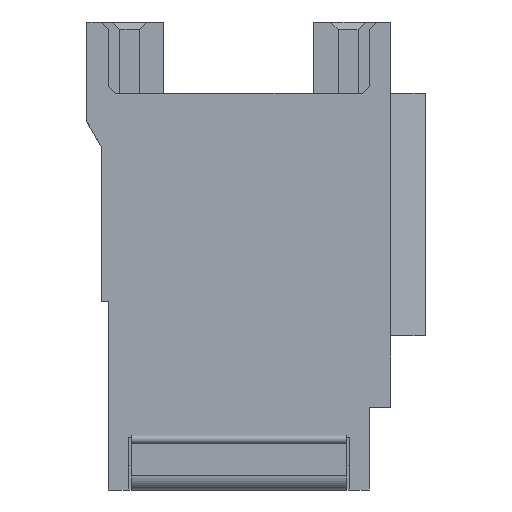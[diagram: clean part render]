
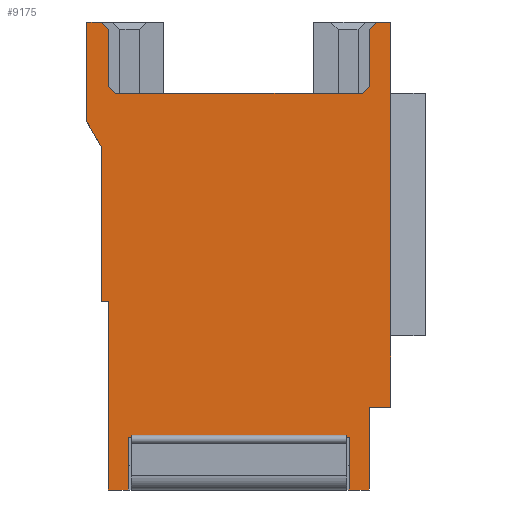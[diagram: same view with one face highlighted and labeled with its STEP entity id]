
A CAD part, front view. The second image highlights one B-rep face of the part: STEP entity #9175.
In plain terms, the highlighted planar face has unit normal (0, -1, 0).
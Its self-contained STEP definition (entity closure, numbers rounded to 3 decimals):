
#73=DIRECTION('',(-1.,0.,0.));
#74=VECTOR('',#73,0.2);
#75=CARTESIAN_POINT('',(7.75,-8.575,-29.1));
#76=LINE('',#75,#74);
#81=DIRECTION('',(0.,0.,1.));
#82=VECTOR('',#81,0.15);
#83=CARTESIAN_POINT('',(7.55,-8.575,-29.1));
#84=LINE('',#83,#82);
#88=DIRECTION('',(-1.,0.,0.));
#89=VECTOR('',#88,15.1);
#90=CARTESIAN_POINT('',(7.55,-8.575,-28.95));
#91=LINE('',#90,#89);
#95=DIRECTION('',(0.,0.,1.));
#96=VECTOR('',#95,0.15);
#97=CARTESIAN_POINT('',(-7.55,-8.575,-29.1));
#98=LINE('',#97,#96);
#102=DIRECTION('',(-1.,0.,0.));
#103=VECTOR('',#102,0.2);
#104=CARTESIAN_POINT('',(-7.55,-8.575,-29.1));
#105=LINE('',#104,#103);
#109=DIRECTION('',(0.,0.,1.));
#110=VECTOR('',#109,3.7);
#111=CARTESIAN_POINT('',(-7.75,-8.575,-32.8));
#112=LINE('',#111,#110);
#116=DIRECTION('',(-1.,0.,0.));
#117=VECTOR('',#116,1.4);
#118=CARTESIAN_POINT('',(-7.75,-8.575,-32.8));
#119=LINE('',#118,#117);
#123=DIRECTION('',(0.,0.,1.));
#124=VECTOR('',#123,13.2);
#125=CARTESIAN_POINT('',(-9.15,-8.575,-32.8));
#126=LINE('',#125,#124);
#130=DIRECTION('',(-1.,0.,0.));
#131=VECTOR('',#130,0.5);
#132=CARTESIAN_POINT('',(-9.15,-8.575,-19.6));
#133=LINE('',#132,#131);
#137=DIRECTION('',(0.,0.,1.));
#138=VECTOR('',#137,10.868);
#139=CARTESIAN_POINT('',(-9.65,-8.575,-19.6));
#140=LINE('',#139,#138);
#144=DIRECTION('',(-0.5,0.,0.866));
#145=VECTOR('',#144,2.);
#146=CARTESIAN_POINT('',(-9.65,-8.575,-8.732));
#147=LINE('',#146,#145);
#151=DIRECTION('',(0.,0.,1.));
#152=VECTOR('',#151,7.);
#153=CARTESIAN_POINT('',(-10.65,-8.575,-7.));
#154=LINE('',#153,#152);
#158=DIRECTION('',(1.,0.,0.));
#159=VECTOR('',#158,1.);
#160=CARTESIAN_POINT('',(-10.65,-8.575,0.));
#161=LINE('',#160,#159);
#165=DIRECTION('',(0.707,0.,-0.707));
#166=VECTOR('',#165,0.707);
#167=CARTESIAN_POINT('',(-9.65,-8.575,0.));
#168=LINE('',#167,#166);
#172=DIRECTION('',(0.,0.,-1.));
#173=VECTOR('',#172,4.);
#174=CARTESIAN_POINT('',(-9.15,-8.575,-0.5));
#175=LINE('',#174,#173);
#179=DIRECTION('',(0.707,0.,-0.707));
#180=VECTOR('',#179,0.707);
#181=CARTESIAN_POINT('',(-9.15,-8.575,-4.5));
#182=LINE('',#181,#180);
#186=DIRECTION('',(1.,0.,0.));
#187=VECTOR('',#186,17.3);
#188=CARTESIAN_POINT('',(-8.65,-8.575,-5.));
#189=LINE('',#188,#187);
#193=DIRECTION('',(0.707,0.,0.707));
#194=VECTOR('',#193,0.707);
#195=CARTESIAN_POINT('',(8.65,-8.575,-5.));
#196=LINE('',#195,#194);
#200=DIRECTION('',(0.,0.,1.));
#201=VECTOR('',#200,4.);
#202=CARTESIAN_POINT('',(9.15,-8.575,-4.5));
#203=LINE('',#202,#201);
#207=DIRECTION('',(0.707,0.,0.707));
#208=VECTOR('',#207,0.707);
#209=CARTESIAN_POINT('',(9.15,-8.575,-0.5));
#210=LINE('',#209,#208);
#214=DIRECTION('',(1.,0.,0.));
#215=VECTOR('',#214,1.);
#216=CARTESIAN_POINT('',(9.65,-8.575,0.));
#217=LINE('',#216,#215);
#221=DIRECTION('',(0.,0.,-1.));
#222=VECTOR('',#221,17.);
#223=CARTESIAN_POINT('',(10.65,-8.575,-5.));
#224=LINE('',#223,#222);
#228=DIRECTION('',(-1.,0.,0.));
#229=VECTOR('',#228,1.5);
#230=CARTESIAN_POINT('',(10.65,-8.575,-27.));
#231=LINE('',#230,#229);
#235=DIRECTION('',(0.,0.,-1.));
#236=VECTOR('',#235,5.8);
#237=CARTESIAN_POINT('',(9.15,-8.575,-27.));
#238=LINE('',#237,#236);
#242=DIRECTION('',(-1.,0.,0.));
#243=VECTOR('',#242,1.4);
#244=CARTESIAN_POINT('',(9.15,-8.575,-32.8));
#245=LINE('',#244,#243);
#249=DIRECTION('',(0.,0.,1.));
#250=VECTOR('',#249,3.7);
#251=CARTESIAN_POINT('',(7.75,-8.575,-32.8));
#252=LINE('',#251,#250);
#1290=DIRECTION('',(0.,0.,1.));
#1291=VECTOR('',#1290,5.);
#1292=CARTESIAN_POINT('',(10.65,-8.575,-27.));
#1293=LINE('',#1292,#1291);
#1318=DIRECTION('',(0.,0.,1.));
#1319=VECTOR('',#1318,5.);
#1320=CARTESIAN_POINT('',(10.65,-8.575,-5.));
#1321=LINE('',#1320,#1319);
#7683=CARTESIAN_POINT('',(-9.65,-8.575,-19.6));
#7684=CARTESIAN_POINT('',(-9.65,-8.575,-8.732));
#7685=VERTEX_POINT('',#7683);
#7686=VERTEX_POINT('',#7684);
#7687=CARTESIAN_POINT('',(-10.65,-8.575,-7.));
#7688=VERTEX_POINT('',#7687);
#7689=CARTESIAN_POINT('',(-10.65,-8.575,0.));
#7690=VERTEX_POINT('',#7689);
#7691=CARTESIAN_POINT('',(10.65,-8.575,-27.));
#7692=CARTESIAN_POINT('',(9.15,-8.575,-27.));
#7693=VERTEX_POINT('',#7691);
#7694=VERTEX_POINT('',#7692);
#7695=CARTESIAN_POINT('',(9.15,-8.575,-32.8));
#7696=VERTEX_POINT('',#7695);
#7703=CARTESIAN_POINT('',(-9.15,-8.575,-32.8));
#7705=VERTEX_POINT('',#7703);
#7707=CARTESIAN_POINT('',(-9.15,-8.575,-19.6));
#7708=VERTEX_POINT('',#7707);
#7723=CARTESIAN_POINT('',(10.65,-8.575,-5.));
#7724=CARTESIAN_POINT('',(10.65,-8.575,-22.));
#7725=VERTEX_POINT('',#7723);
#7726=VERTEX_POINT('',#7724);
#7745=CARTESIAN_POINT('',(10.65,-8.575,0.));
#7746=VERTEX_POINT('',#7745);
#7812=CARTESIAN_POINT('',(-9.65,-8.575,0.));
#7813=CARTESIAN_POINT('',(-9.15,-8.575,-0.5));
#7814=VERTEX_POINT('',#7812);
#7815=VERTEX_POINT('',#7813);
#7816=CARTESIAN_POINT('',(-9.15,-8.575,-4.5));
#7817=VERTEX_POINT('',#7816);
#7818=CARTESIAN_POINT('',(9.15,-8.575,-0.5));
#7819=CARTESIAN_POINT('',(9.65,-8.575,0.));
#7820=VERTEX_POINT('',#7818);
#7821=VERTEX_POINT('',#7819);
#8082=CARTESIAN_POINT('',(-8.65,-8.575,-5.));
#8083=VERTEX_POINT('',#8082);
#8084=CARTESIAN_POINT('',(8.65,-8.575,-5.));
#8085=VERTEX_POINT('',#8084);
#8086=CARTESIAN_POINT('',(9.15,-8.575,-4.5));
#8087=VERTEX_POINT('',#8086);
#8961=CARTESIAN_POINT('',(-7.75,-8.575,-32.8));
#8963=VERTEX_POINT('',#8961);
#8968=CARTESIAN_POINT('',(7.75,-8.575,-32.8));
#8969=VERTEX_POINT('',#8968);
#8970=CARTESIAN_POINT('',(-7.75,-8.575,-29.1));
#8971=VERTEX_POINT('',#8970);
#8984=CARTESIAN_POINT('',(7.75,-8.575,-29.1));
#8985=VERTEX_POINT('',#8984);
#9080=CARTESIAN_POINT('',(7.55,-8.575,-29.1));
#9081=VERTEX_POINT('',#9080);
#9082=CARTESIAN_POINT('',(-7.55,-8.575,-29.1));
#9083=VERTEX_POINT('',#9082);
#9104=CARTESIAN_POINT('',(7.55,-8.575,-28.95));
#9105=VERTEX_POINT('',#9104);
#9106=CARTESIAN_POINT('',(-7.55,-8.575,-28.95));
#9107=VERTEX_POINT('',#9106);
#9112=CARTESIAN_POINT('',(0.,-8.575,0.));
#9113=DIRECTION('',(0.,1.,0.));
#9114=DIRECTION('',(1.,0.,0.));
#9115=AXIS2_PLACEMENT_3D('',#9112,#9113,#9114);
#9116=PLANE('',#9115);
#9118=ORIENTED_EDGE('',*,*,#9117,.T.);
#9120=ORIENTED_EDGE('',*,*,#9119,.T.);
#9122=ORIENTED_EDGE('',*,*,#9121,.T.);
#9124=ORIENTED_EDGE('',*,*,#9123,.F.);
#9126=ORIENTED_EDGE('',*,*,#9125,.T.);
#9128=ORIENTED_EDGE('',*,*,#9127,.F.);
#9130=ORIENTED_EDGE('',*,*,#9129,.T.);
#9132=ORIENTED_EDGE('',*,*,#9131,.T.);
#9134=ORIENTED_EDGE('',*,*,#9133,.T.);
#9136=ORIENTED_EDGE('',*,*,#9135,.T.);
#9138=ORIENTED_EDGE('',*,*,#9137,.T.);
#9140=ORIENTED_EDGE('',*,*,#9139,.T.);
#9142=ORIENTED_EDGE('',*,*,#9141,.T.);
#9144=ORIENTED_EDGE('',*,*,#9143,.T.);
#9146=ORIENTED_EDGE('',*,*,#9145,.T.);
#9148=ORIENTED_EDGE('',*,*,#9147,.T.);
#9150=ORIENTED_EDGE('',*,*,#9149,.T.);
#9152=ORIENTED_EDGE('',*,*,#9151,.T.);
#9154=ORIENTED_EDGE('',*,*,#9153,.T.);
#9156=ORIENTED_EDGE('',*,*,#9155,.T.);
#9158=ORIENTED_EDGE('',*,*,#9157,.T.);
#9160=ORIENTED_EDGE('',*,*,#9159,.F.);
#9162=ORIENTED_EDGE('',*,*,#9161,.T.);
#9164=ORIENTED_EDGE('',*,*,#9163,.F.);
#9166=ORIENTED_EDGE('',*,*,#9165,.T.);
#9168=ORIENTED_EDGE('',*,*,#9167,.T.);
#9170=ORIENTED_EDGE('',*,*,#9169,.T.);
#9172=ORIENTED_EDGE('',*,*,#9171,.T.);
#9173=EDGE_LOOP('',(#9118,#9120,#9122,#9124,#9126,#9128,#9130,#9132,#9134,#9136,
#9138,#9140,#9142,#9144,#9146,#9148,#9150,#9152,#9154,#9156,#9158,#9160,#9162,
#9164,#9166,#9168,#9170,#9172));
#9174=FACE_OUTER_BOUND('',#9173,.F.);
#9175=ADVANCED_FACE('',(#9174),#9116,.F.);
#9117=EDGE_CURVE('',#8985,#9081,#76,.T.);
#9119=EDGE_CURVE('',#9081,#9105,#84,.T.);
#9121=EDGE_CURVE('',#9105,#9107,#91,.T.);
#9123=EDGE_CURVE('',#9083,#9107,#98,.T.);
#9125=EDGE_CURVE('',#9083,#8971,#105,.T.);
#9127=EDGE_CURVE('',#8963,#8971,#112,.T.);
#9129=EDGE_CURVE('',#8963,#7705,#119,.T.);
#9131=EDGE_CURVE('',#7705,#7708,#126,.T.);
#9133=EDGE_CURVE('',#7708,#7685,#133,.T.);
#9135=EDGE_CURVE('',#7685,#7686,#140,.T.);
#9137=EDGE_CURVE('',#7686,#7688,#147,.T.);
#9139=EDGE_CURVE('',#7688,#7690,#154,.T.);
#9141=EDGE_CURVE('',#7690,#7814,#161,.T.);
#9143=EDGE_CURVE('',#7814,#7815,#168,.T.);
#9145=EDGE_CURVE('',#7815,#7817,#175,.T.);
#9147=EDGE_CURVE('',#7817,#8083,#182,.T.);
#9149=EDGE_CURVE('',#8083,#8085,#189,.T.);
#9151=EDGE_CURVE('',#8085,#8087,#196,.T.);
#9153=EDGE_CURVE('',#8087,#7820,#203,.T.);
#9155=EDGE_CURVE('',#7820,#7821,#210,.T.);
#9157=EDGE_CURVE('',#7821,#7746,#217,.T.);
#9159=EDGE_CURVE('',#7725,#7746,#1321,.T.);
#9161=EDGE_CURVE('',#7725,#7726,#224,.T.);
#9163=EDGE_CURVE('',#7693,#7726,#1293,.T.);
#9165=EDGE_CURVE('',#7693,#7694,#231,.T.);
#9167=EDGE_CURVE('',#7694,#7696,#238,.T.);
#9169=EDGE_CURVE('',#7696,#8969,#245,.T.);
#9171=EDGE_CURVE('',#8969,#8985,#252,.T.);
